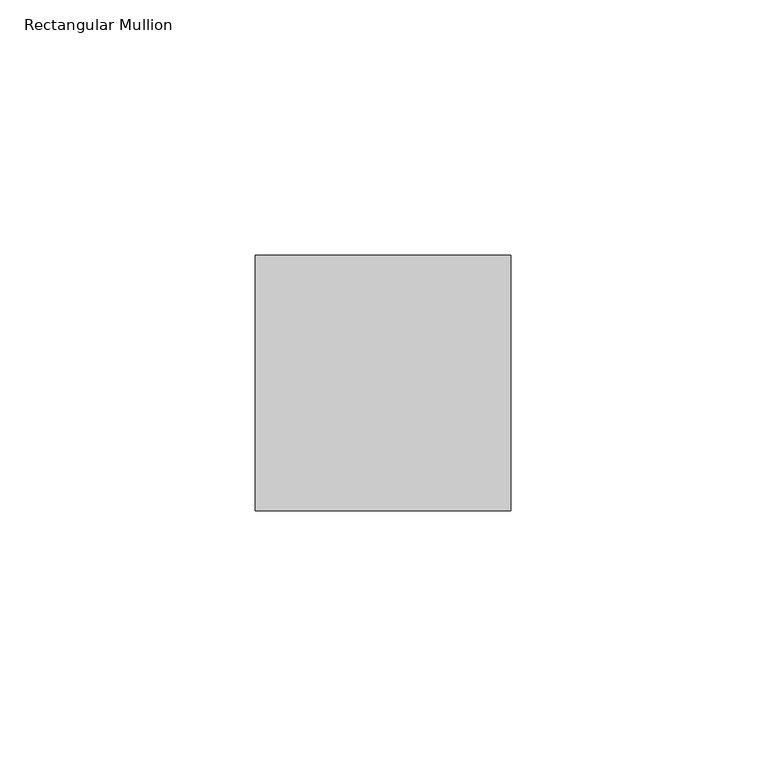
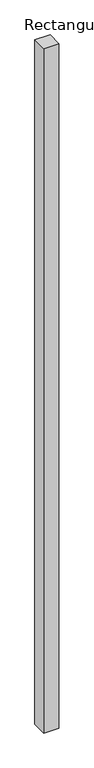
"""IFC4 building model written with IfcOpenShell, lengths in millimetres: member geometry, Rectangular Mullion : Mullion_Curtain Wall_Generic Showcase_50x50mm."""

from ifc_helpers import new_model, si_unit, frame, origin, place, context, project, spatial, polyline, outline, extrude, source, transform, mapped, element, save


def rectangular_mullion_38df19ef(model_context):
    return source(origin(), model_context, "Body", "SweptSolid", [
        extrude(outline(polyline([(0.0, 50.0), (0.0, 0.0), (-50.0, 0.0), (-50.0, 50.0), (0.0, 50.0)])), frame((0.0, 0.0, -2375.0), z_axis=(0.0, 0.0, 1.0), x_axis=(1.0, 0.0, 0.0)), (0.0, 0.0, 1.0), 2375.0),
    ])


if __name__ == "__main__":
    model = new_model("IFC4")
    model_context = context("Model", 3, world=origin())
    ifc_project = project(units=[si_unit("LENGTHUNIT", "METRE", prefix="MILLI")], contexts=[model_context])
    site = spatial("IfcSite", under=ifc_project)
    building = spatial("IfcBuilding", under=site)
    placement = place(None, origin())
    rectangular_mullion_shape = rectangular_mullion_38df19ef(model_context)
    element("IfcMember", 1, ObjectType="Rectangular Mullion : Mullion_Curtain Wall_Generic Showcase_50x50mm", at=placement, inside=building, context=model_context, shape_type="MappedRepresentation", body=[
        mapped(rectangular_mullion_shape, transform((0.0, 0.0, 0.0), x_axis=(1.0, 0.0, 0.0), y_axis=(0.0, 1.0, 0.0), z_axis=(0.0, 0.0, 1.0))),
    ])
    save(model, "model.ifc")
